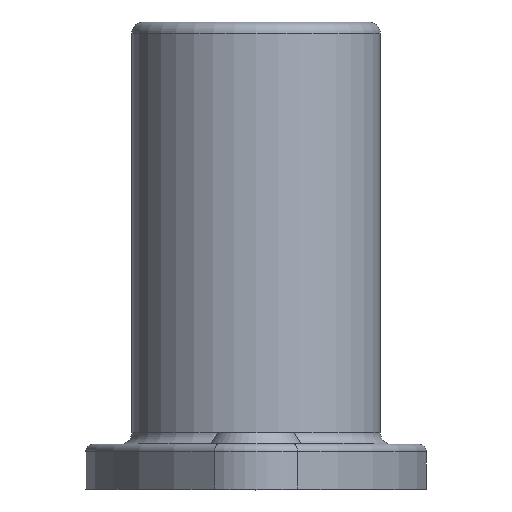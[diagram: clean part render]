
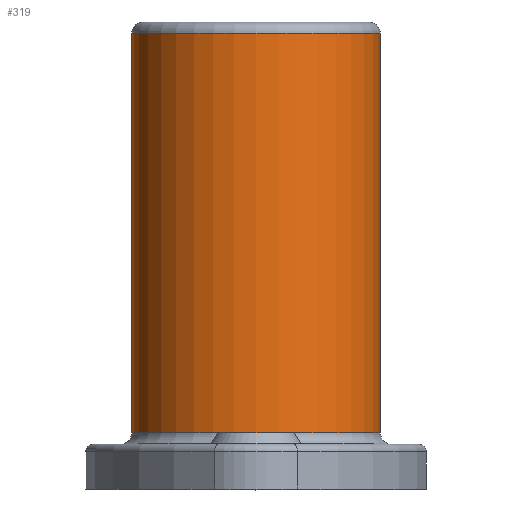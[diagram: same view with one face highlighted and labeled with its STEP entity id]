
A CAD part, top view. The second image highlights one B-rep face of the part: STEP entity #319.
In plain terms, the highlighted cylindrical face has radius 33 mm (diameter 66 mm), a full revolution.
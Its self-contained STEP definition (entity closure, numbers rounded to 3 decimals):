
#34=LINE('',#588,#44);
#44=VECTOR('',#477,33.);
#53=CYLINDRICAL_SURFACE('',#384,33.);
#67=FACE_OUTER_BOUND('',#92,.T.);
#92=EDGE_LOOP('',(#253,#254,#255,#256,#257,#258));
#128=CIRCLE('',#381,33.);
#130=CIRCLE('',#383,33.);
#131=CIRCLE('',#385,33.);
#132=CIRCLE('',#386,33.);
#159=VERTEX_POINT('',#579);
#160=VERTEX_POINT('',#580);
#161=VERTEX_POINT('',#585);
#162=VERTEX_POINT('',#586);
#193=EDGE_CURVE('',#159,#160,#128,.T.);
#195=EDGE_CURVE('',#160,#159,#130,.T.);
#196=EDGE_CURVE('',#161,#162,#131,.T.);
#197=EDGE_CURVE('',#161,#159,#34,.T.);
#198=EDGE_CURVE('',#162,#161,#132,.T.);
#253=ORIENTED_EDGE('',*,*,#196,.F.);
#254=ORIENTED_EDGE('',*,*,#197,.T.);
#255=ORIENTED_EDGE('',*,*,#195,.F.);
#256=ORIENTED_EDGE('',*,*,#193,.F.);
#257=ORIENTED_EDGE('',*,*,#197,.F.);
#258=ORIENTED_EDGE('',*,*,#198,.F.);
#319=ADVANCED_FACE('',(#67),#53,.T.);
#381=AXIS2_PLACEMENT_3D('',#581,#467,#468);
#383=AXIS2_PLACEMENT_3D('',#583,#471,#472);
#384=AXIS2_PLACEMENT_3D('',#584,#473,#474);
#385=AXIS2_PLACEMENT_3D('',#587,#475,#476);
#386=AXIS2_PLACEMENT_3D('',#589,#478,#479);
#467=DIRECTION('center_axis',(0.,-1.,0.));
#468=DIRECTION('ref_axis',(-1.,0.,0.));
#471=DIRECTION('center_axis',(0.,-1.,0.));
#472=DIRECTION('ref_axis',(-1.,0.,0.));
#473=DIRECTION('center_axis',(0.,1.,0.));
#474=DIRECTION('ref_axis',(1.,0.,0.));
#475=DIRECTION('center_axis',(0.,1.,0.));
#476=DIRECTION('ref_axis',(-1.,0.,0.));
#477=DIRECTION('',(0.,-1.,0.));
#478=DIRECTION('center_axis',(0.,1.,0.));
#479=DIRECTION('ref_axis',(-1.,0.,0.));
#579=CARTESIAN_POINT('',(-33.,15.,0.));
#580=CARTESIAN_POINT('',(0.,15.,33.));
#581=CARTESIAN_POINT('Origin',(0.,15.,0.));
#583=CARTESIAN_POINT('Origin',(0.,15.,0.));
#584=CARTESIAN_POINT('Origin',(0.,12.,0.));
#585=CARTESIAN_POINT('',(-33.,121.,0.));
#586=CARTESIAN_POINT('',(0.,121.,-33.));
#587=CARTESIAN_POINT('Origin',(0.,121.,0.));
#588=CARTESIAN_POINT('',(-33.,12.,0.));
#589=CARTESIAN_POINT('Origin',(0.,121.,0.));
